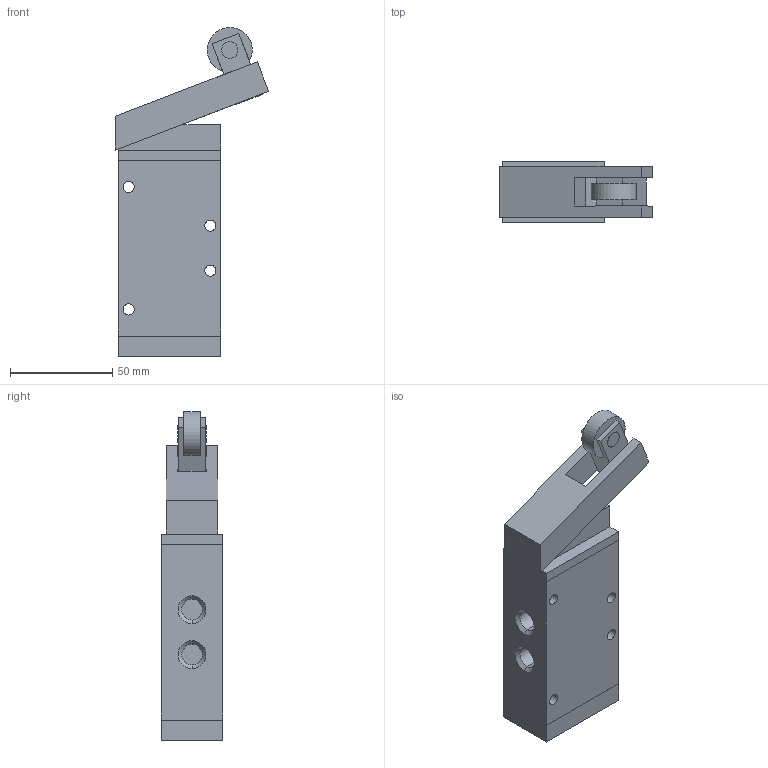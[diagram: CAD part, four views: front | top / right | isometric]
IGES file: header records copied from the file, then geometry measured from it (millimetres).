
Global section: file name: No Iges File Name specified; native system: AutoDesk Inventor R11.0; preprocessor: AutoDesk Inventor Iges Exporter R11.0; author: No Author specified; organization: No Organization specified; date: 20061219.113641; units: millimetre
Bounding box: 75 x 30 x 160.98 mm (x, y, z)
Volume: 180565.2 mm3; surface area: 32578.5 mm2
Topology: 2 solids, 2 shells, 79 faces, 185 edges, 120 vertices
Faces by surface type: plane 41, bspline 25, revolution 8, cylinder 5
